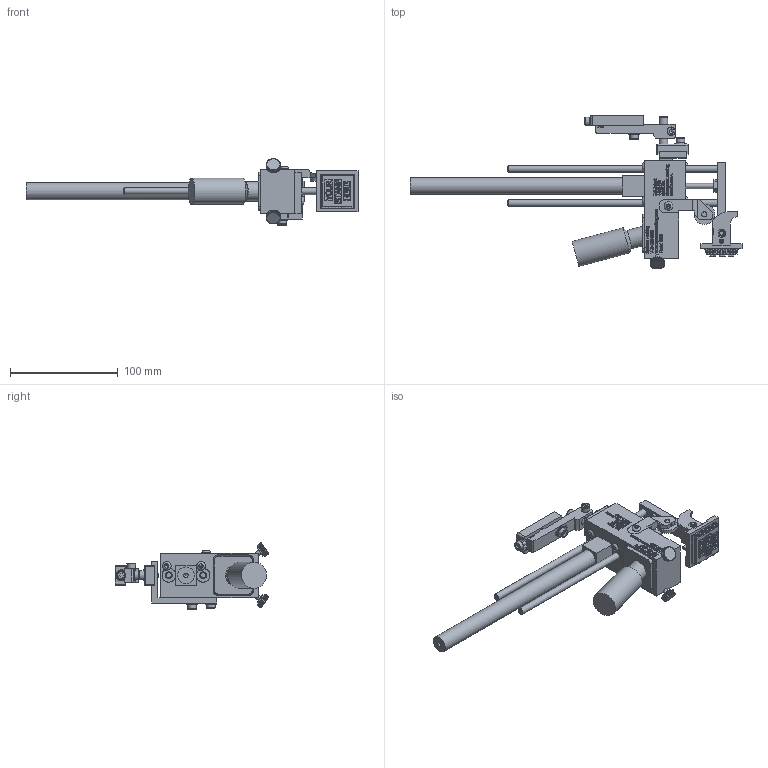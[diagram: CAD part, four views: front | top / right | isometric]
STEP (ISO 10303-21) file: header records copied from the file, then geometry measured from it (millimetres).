
FILE_DESCRIPTION((''),'2;1');
FILE_NAME('C:\Documents and Settings\Ron\My Documents\Inventor\Sprinter Drawing\Machines in Inventor\Model 1010\Type\Ext Str\E4\Brkt\90\Model 1010 ES4 90 deg w Brkt.stp','2009-01-27T12:10:25',('Ron'),(''),'Autodesk Inventor 2008','Autodesk Inventor 2008','');
FILE_SCHEMA(('AUTOMOTIVE_DESIGN { 1 0 10303 214 1 1 1 1 }'));
Length unit declared in the file: inch
Products named in the file (1): Model 1010 ES4  90 deg w Brkt
Bounding box: 308.14 x 142.74 x 61.82 mm (x, y, z)
Volume: 262152.1 mm3; surface area: 90425.9 mm2
Topology: 385 solids, 385 shells, 6612 faces, 16490 edges, 10228 vertices
Faces by surface type: plane 4582, bspline 1380, cylinder 550, cone 75, torus 21, sphere 4
Full cylindrical faces by diameter (mm): 2.845 x1, 3.175 x1, 3.505 x1, 3.708 x2, 4.064 x2, 4.166 x5, 4.75 x5, 4.775 x2, 4.826 x10, 5.08 x1, 5.156 x3, 6.223 x2, 6.325 x2, 6.35 x2, 6.604 x1, 6.68 x1, 6.858 x2, 7.62 x2, 7.925 x11, 7.938 x1, 9.017 x1, 9.525 x2, 10.312 x4, 10.922 x1, 15.494 x1, 17.526 x1, 19.05 x1, 24.13 x1
Entity records: 206602 total; most frequent: CARTESIAN_POINT 56630, ORIENTED_EDGE 32334, DIRECTION 25259, EDGE_CURVE 16167, VECTOR 12037, LINE 12037, VERTEX_POINT 10120, EDGE_LOOP 7231
